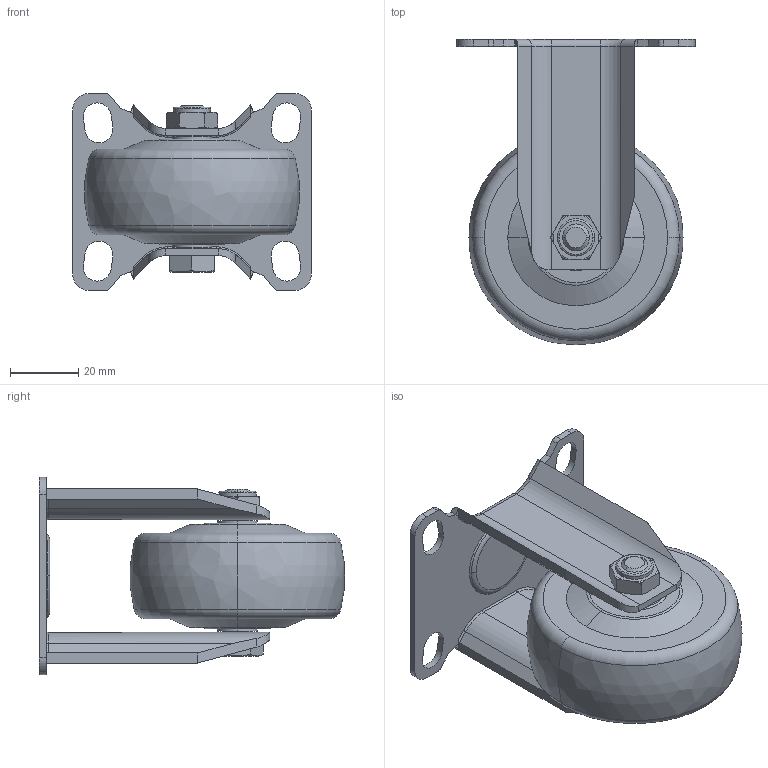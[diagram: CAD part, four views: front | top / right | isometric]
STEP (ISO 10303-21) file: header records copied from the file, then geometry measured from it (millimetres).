
FILE_DESCRIPTION((''),'2;1');
FILE_NAME('S347025_ASM','2021-07-26T',('lenovo'),(''),'PRO/ENGINEER BY PARAMETRIC TECHNOLOGY CORPORATION, 2010280','PRO/ENGINEER BY PARAMETRIC TECHNOLOGY CORPORATION, 2010280','');
FILE_SCHEMA(('CONFIG_CONTROL_DESIGN'));
Length unit declared in the file: millimetre
Products named in the file (5): S3425-10; 3625-964; S340-33; S340-34; S347025_ASM
Assembly tree (4 placements, depth 2):
  S347025_ASM
    S3425-10
    3625-964
    S340-33
    S340-34
Bounding box: 70 x 89.36 x 57.8 mm (x, y, z)
Volume: 96151.7 mm3; surface area: 30071.3 mm2
Topology: 4 solids, 4 shells, 205 faces, 510 edges, 324 vertices
Faces by surface type: plane 89, cylinder 60, torus 34, cone 20, bspline 2
Entity records: 6601 total; most frequent: CARTESIAN_POINT 1524, DIRECTION 1068, ORIENTED_EDGE 1020, EDGE_CURVE 510, AXIS2_PLACEMENT_3D 408, VERTEX_POINT 324, VECTOR 252, LINE 252
